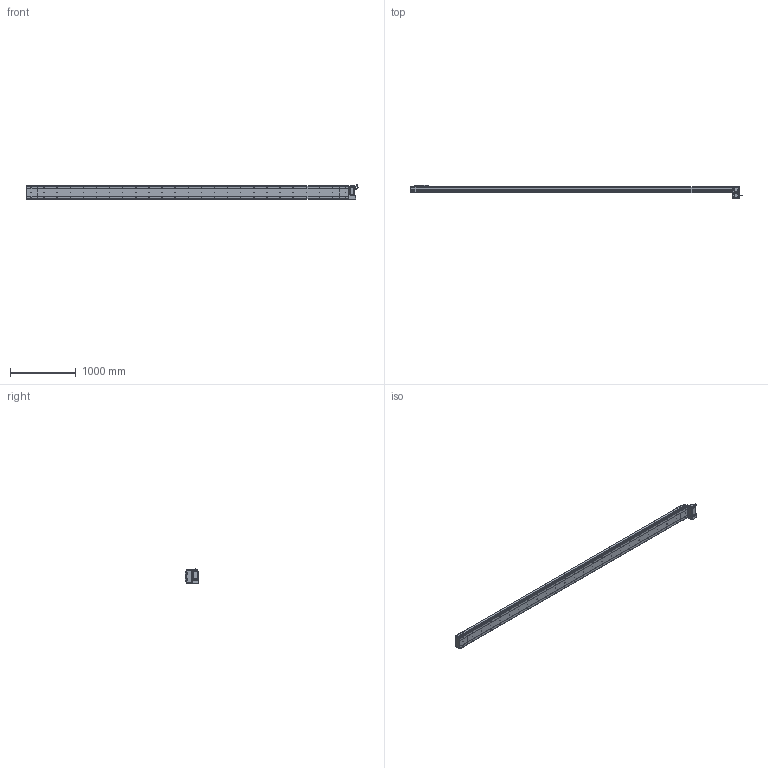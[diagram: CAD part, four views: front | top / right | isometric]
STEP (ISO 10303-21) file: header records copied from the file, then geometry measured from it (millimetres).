
FILE_DESCRIPTION (( 'STEP AP214' ), '1' );
FILE_NAME ('D20 CBH RU S4600.STEP', '2010-06-30T11:45:09', ( 'Conseil Régional Haute-Normandie' ), ( 'Conseil Régional Haute-Normandie' ), 'SwSTEP 2.0', 'SolidWorks 2010', '' );
FILE_SCHEMA (( 'AUTOMOTIVE_DESIGN' ));
Length unit declared in the file: millimetre
Products named in the file (31): Plaque de Bout Head D20 RU_Default; Chariot D20_Default; D20 CBH RU S4600; Support moteur RU_Default; Head RU_Default; Support Chariot D20_Default; Couvercle S4600_Default; Corp Tail D20 RU_Default; Glissiere_Default; Corp S4600_Default; Corp D20 S4600_Default; Plaque De Serrage D20 RU_Default; Couvercle RU_Default; vis M5 L47_Default; ecrou_Default; Cache Support Moteur RU_Default; vis M5 L30_Default; Rondelle Cache D20 RU_Default; corps 90BLDC125A-640; avant 90BLDC125A-640; Moteur motionking 90BLDC125A-640; codeur 90BLDC125-640; Conecteur_Default; Conecteur2_Default; vis M5 L15_Default; Plaque De Serrage D20_Default; Tail D20_Default; Corp Tail D20_Default; Plaque de Bout Tail D20_Default; Couvercle_Default
Assembly tree (66 placements, depth 4):
  D20 CBH RU S4600
    Tail D20_Default
      Plaque de Bout Tail D20_Default
      Couvercle_Default
      Plaque De Serrage D20_Default
      vis M5 L15_Default  x6
      Corp Tail D20_Default
    Corp D20 S4600_Default
      Couvercle S4600_Default
      Corp S4600_Default
    Chariot D20_Default
      Chariot D20_Default
      vis M5 L15_Default  x8
      Support Chariot D20_Default
      Glissiere_Default
    Head RU_Default
      vis M5 L47_Default  x4
      vis M5 L15_Default  x12
      ecrou_Default  x4
      vis M5 L30_Default  x4
      Cache Support Moteur RU_Default
      Rondelle Cache D20 RU_Default  x3
      Plaque de Bout Head D20 RU_Default
      Corp Tail D20 RU_Default
      Couvercle RU_Default
      Plaque De Serrage D20 RU_Default
      Moteur motionking 90BLDC125A-640
        avant 90BLDC125A-640
        Conecteur_Default
        Conecteur2_Default
        corps 90BLDC125A-640
        codeur 90BLDC125-640
      Support moteur RU_Default
Bounding box: 5064.45 x 209 x 229.7 mm (x, y, z)
Volume: 33349322.5 mm3; surface area: 6328412.1 mm2
Topology: 103 solids, 103 shells, 3886 faces, 9632 edges, 6262 vertices
Faces by surface type: plane 2135, bspline 806, cylinder 782, torus 91, cone 68, sphere 4
Entity records: 162526 total; most frequent: CARTESIAN_POINT 82818, ORIENTED_EDGE 15732, DIRECTION 12234, EDGE_CURVE 7866, VERTEX_POINT 5206, VECTOR 5014, LINE 5014, AXIS2_PLACEMENT_3D 3610
